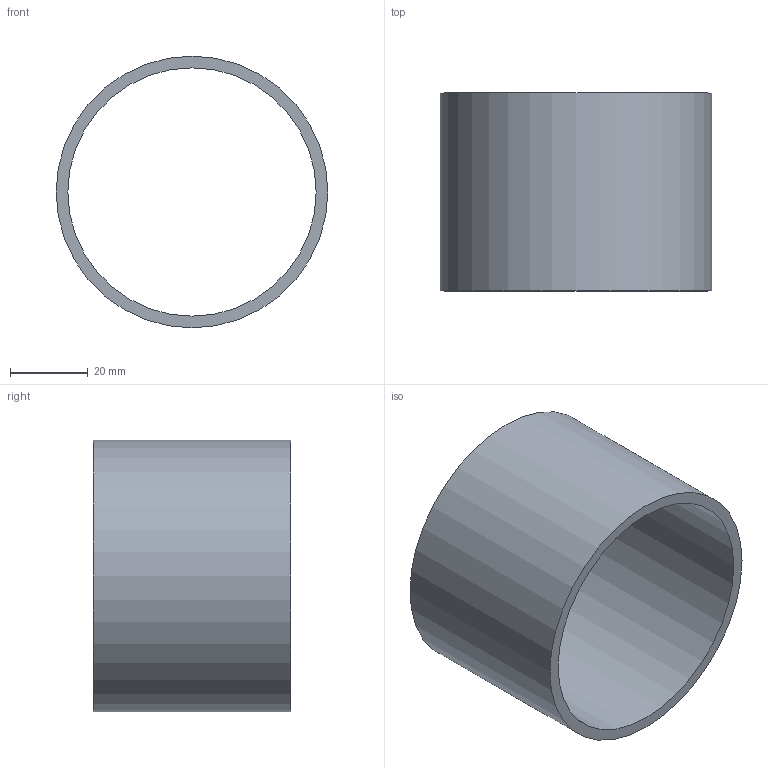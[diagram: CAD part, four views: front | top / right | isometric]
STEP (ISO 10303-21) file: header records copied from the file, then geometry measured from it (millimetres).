
FILE_DESCRIPTION(('STEP AP214'), '1');
FILE_NAME('砑僳鍙', '', ('UNSPECIFIED'), ('UNSPECIFIED'), 'C3D Converter', 'C3D Toolkit', '');
FILE_SCHEMA(('AUTOMOTIVE_DESIGN { 1 0 10303 214 3 1 1}'));
Length unit declared in the file: millimetre
Bounding box: 70 x 51 x 70 mm (x, y, z)
Volume: 32204.5 mm3; surface area: 22732.6 mm2
Topology: 1 solids, 1 shells, 4 faces, 6 edges, 4 vertices
Faces by surface type: plane 2, cylinder 2
Full cylindrical faces by diameter (mm): 64 x1, 70 x1
Entity records: 160 total; most frequent: DIRECTION 18, CARTESIAN_POINT 13, AXIS2_PLACEMENT_3D 9, EDGE_LOOP 8, ORIENTED_EDGE 8, COLOUR_RGB 5, FILL_AREA_STYLE_COLOUR 5, FILL_AREA_STYLE 5
